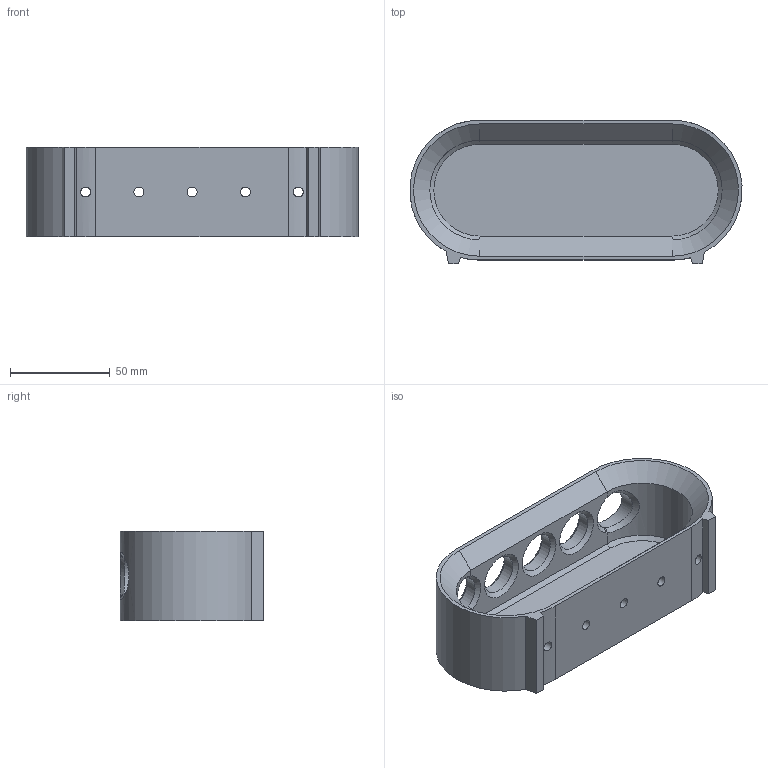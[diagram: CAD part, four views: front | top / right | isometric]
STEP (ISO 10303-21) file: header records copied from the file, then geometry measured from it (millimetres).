
FILE_DESCRIPTION(/* description */ (''),/* implementation_level */ '2;1');
FILE_NAME(/* name */ 'Holder.step',/* time_stamp */ '2023-07-06T13:18:22+02:00',/* author */ (''),/* organization */ (''),/* preprocessor_version */ 'ST-DEVELOPER v19.2',/* originating_system */ 'Autodesk Translation Framework v12.6.0.85',/* authorisation */ '');
FILE_SCHEMA (('AUTOMOTIVE_DESIGN { 1 0 10303 214 3 1 1 }'));
Length unit declared in the file: millimetre
Products named in the file (1): (Unsaved)
Bounding box: 166.3 x 71.85 x 45 mm (x, y, z)
Volume: 160927.3 mm3; surface area: 53363.5 mm2
Topology: 1 solids, 1 shells, 71 faces, 183 edges, 114 vertices
Faces by surface type: plane 22, cone 19, cylinder 18, bspline 12
Full cylindrical faces by diameter (mm): 5 x5, 20 x5
Entity records: 2945 total; most frequent: CARTESIAN_POINT 1154, ORIENTED_EDGE 366, DIRECTION 331, EDGE_CURVE 183, AXIS2_PLACEMENT_3D 120, VERTEX_POINT 114, EDGE_LOOP 91, LINE 91
